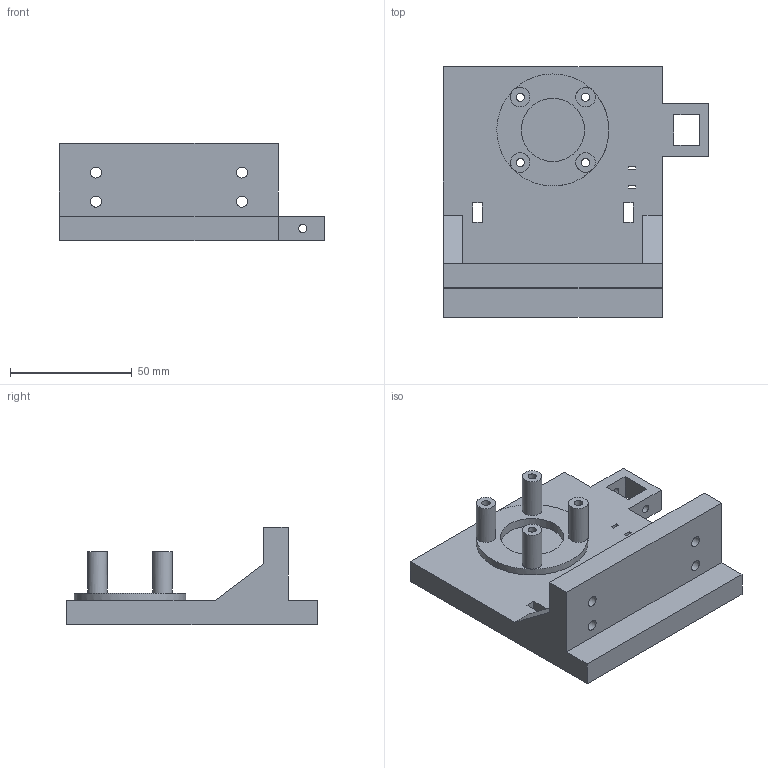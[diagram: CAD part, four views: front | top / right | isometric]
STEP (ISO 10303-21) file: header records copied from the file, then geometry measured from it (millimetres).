
FILE_DESCRIPTION(('Open CASCADE Model'),'2;1');
FILE_NAME('Open CASCADE Shape Model','2026-11-12T16:33:15',('Author'),( 'Open CASCADE'),'Open CASCADE STEP processor 7.9','Open CASCADE 7.9' ,'Unknown');
FILE_SCHEMA(('AUTOMOTIVE_DESIGN { 1 0 10303 214 1 1 1 1 }'));
Length unit declared in the file: millimetre
Products named in the file (1): Open CASCADE STEP translator 7.9 5
Bounding box: 109 x 103 x 40 mm (x, y, z)
Volume: 126695.6 mm3; surface area: 35353.9 mm2
Topology: 1 solids, 1 shells, 62 faces, 167 edges, 111 vertices
Faces by surface type: plane 45, cylinder 17
Full cylindrical faces by diameter (mm): 3.4 x6, 4.5 x4, 8 x4, 19.6 x1, 26 x1, 46 x1
Entity records: 4201 total; most frequent: CARTESIAN_POINT 684, DIRECTION 668, LINE 417, VECTOR 417, ORIENTED_EDGE 334, PCURVE 334, DEFINITIONAL_REPRESENTATION 334, EDGE_CURVE 167
